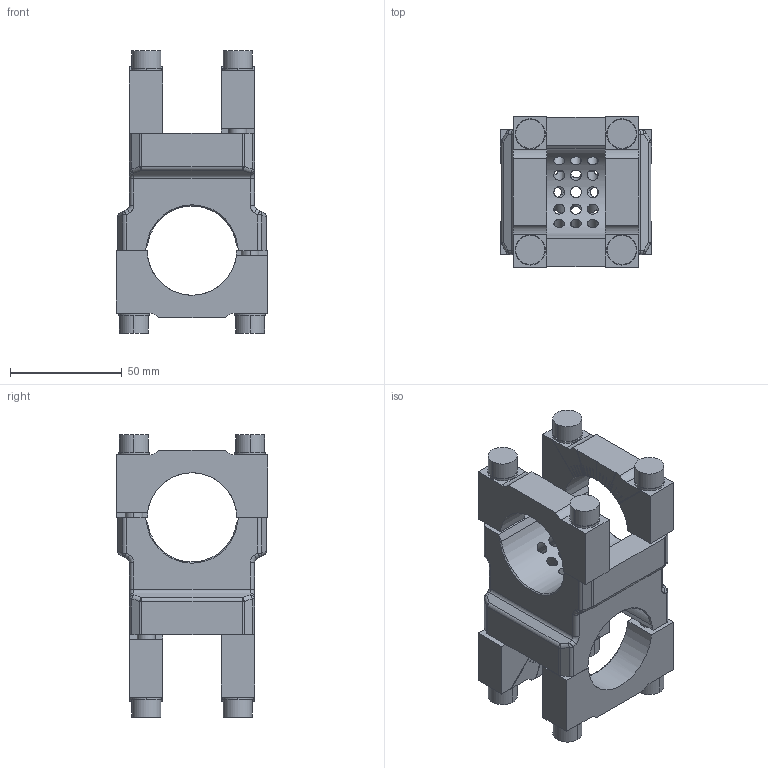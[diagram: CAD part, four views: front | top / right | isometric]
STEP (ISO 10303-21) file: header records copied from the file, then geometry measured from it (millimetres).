
FILE_DESCRIPTION(('STEP AP214'),'1');
FILE_NAME('EGT139_1720231_RD40_RD40_X90.CATPart.stp','2015-09-14T13:09:59',('3D-Tool'),(' '),'Spatial InterOp 3D',' ',' ');
FILE_SCHEMA(('automotive_design'));
Length unit declared in the file: millimetre
Products named in the file (5): EGT139_1720231_RD40_RD40_X90|PartBody|Funktionsteil; 1; 2; 3; 4
Bounding box: 68 x 68 x 126.5 mm (x, y, z)
Volume: 196837.9 mm3; surface area: 66666.9 mm2
Topology: 5 solids, 5 shells, 840 faces, 2210 edges, 1304 vertices
Faces by surface type: plane 348, cylinder 294, cone 174, sphere 16, torus 8
Entity records: 34336 total; most frequent: CARTESIAN_POINT 7821, ORIENTED_EDGE 4164, DIRECTION 3988, EDGE_CURVE 2082, AXIS2_PLACEMENT_3D 1435, VERTEX_POINT 1304, LINE 1118, VECTOR 1118
